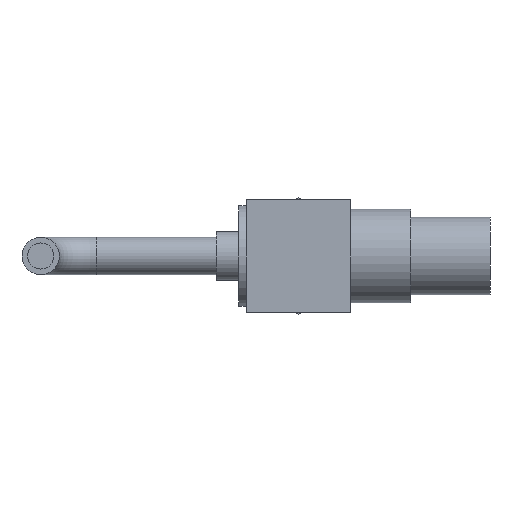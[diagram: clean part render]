
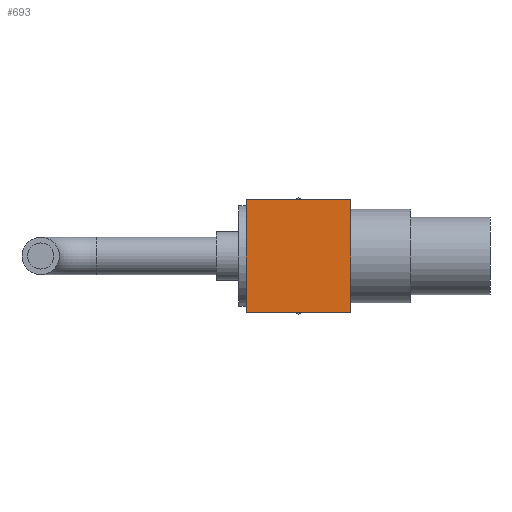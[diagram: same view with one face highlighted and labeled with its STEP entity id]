
A CAD part, front view. The second image highlights one B-rep face of the part: STEP entity #693.
In plain terms, the highlighted planar face has unit normal (0, -1, 0).
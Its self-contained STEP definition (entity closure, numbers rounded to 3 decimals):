
#123=FACE_OUTER_BOUND('',#177,.T.);
#177=EDGE_LOOP('',(#561,#562,#563,#564));
#241=LINE('',#1962,#281);
#245=LINE('',#1973,#285);
#249=LINE('',#1983,#289);
#250=LINE('',#1985,#290);
#281=VECTOR('',#914,10.);
#285=VECTOR('',#922,10.);
#289=VECTOR('',#934,10.);
#290=VECTOR('',#937,10.);
#331=VERTEX_POINT('',#1959);
#332=VERTEX_POINT('',#1961);
#336=VERTEX_POINT('',#1970);
#337=VERTEX_POINT('',#1972);
#408=EDGE_CURVE('',#331,#332,#241,.T.);
#413=EDGE_CURVE('',#336,#337,#245,.T.);
#419=EDGE_CURVE('',#332,#336,#249,.T.);
#420=EDGE_CURVE('',#331,#337,#250,.T.);
#561=ORIENTED_EDGE('',*,*,#408,.F.);
#562=ORIENTED_EDGE('',*,*,#420,.T.);
#563=ORIENTED_EDGE('',*,*,#413,.F.);
#564=ORIENTED_EDGE('',*,*,#419,.F.);
#655=PLANE('',#775);
#693=ADVANCED_FACE('',(#123),#655,.T.);
#775=AXIS2_PLACEMENT_3D('',#1984,#935,#936);
#914=DIRECTION('',(0.,0.,1.));
#922=DIRECTION('',(0.,0.,-1.));
#934=DIRECTION('',(1.,0.,0.));
#935=DIRECTION('center_axis',(0.,-1.,0.));
#936=DIRECTION('ref_axis',(0.,0.,-1.));
#937=DIRECTION('',(1.,0.,0.));
#1959=CARTESIAN_POINT('',(0.,-15.,-15.));
#1961=CARTESIAN_POINT('',(0.,-15.,15.));
#1962=CARTESIAN_POINT('',(0.,-15.,-15.));
#1970=CARTESIAN_POINT('',(28.,-15.,15.));
#1972=CARTESIAN_POINT('',(28.,-15.,-15.));
#1973=CARTESIAN_POINT('',(28.,-15.,-15.));
#1983=CARTESIAN_POINT('',(0.,-15.,15.));
#1984=CARTESIAN_POINT('Origin',(0.,-15.,15.));
#1985=CARTESIAN_POINT('',(0.,-15.,-15.));
